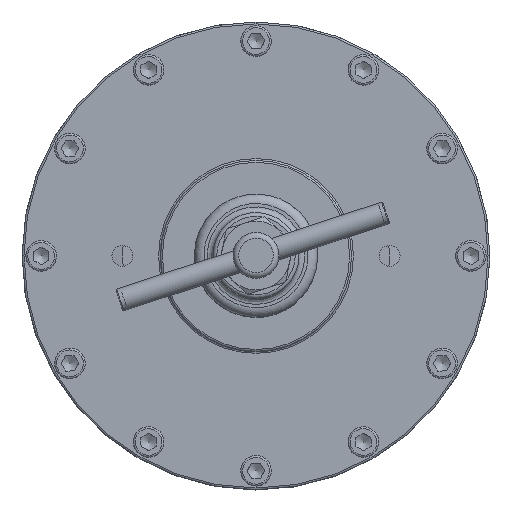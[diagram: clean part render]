
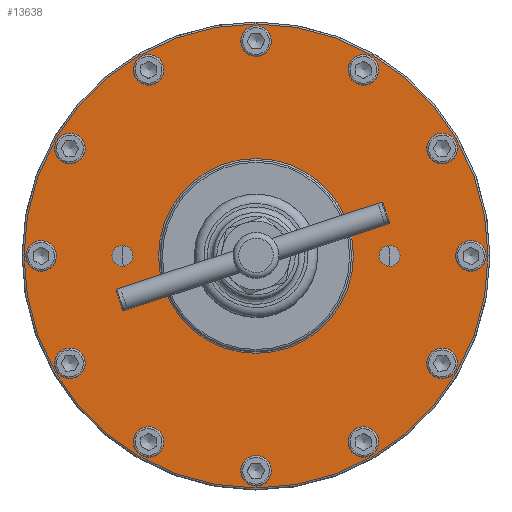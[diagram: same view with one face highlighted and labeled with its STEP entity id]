
A CAD part, top view. The second image highlights one B-rep face of the part: STEP entity #13638.
In plain terms, the highlighted planar face has unit normal (0, 0, 1) as drawn and (0, 1, 0) by its records, which use the part's own axes.
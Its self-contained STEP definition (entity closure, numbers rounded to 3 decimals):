
#13453=CARTESIAN_POINT('',(-121.5,-4.,0.));
#13454=VERTEX_POINT('',#13453);
#13455=CARTESIAN_POINT('',(0.0,-4.,0.0));
#13456=DIRECTION('',(0.0,-1.0,0.0));
#13457=DIRECTION('',(1.0,0.0,0.0));
#13458=AXIS2_PLACEMENT_3D('',#13455,#13456,#13457);
#13459=CIRCLE('',#13458,121.5);
#13460=EDGE_CURVE('',#13454,#13454,#13459,.T.);
#13465=CARTESIAN_POINT('',(-86.25,-4.,0.0));
#13466=DIRECTION('',(0.0,1.0,0.0));
#13467=DIRECTION('',(0.0,0.0,1.0));
#13468=AXIS2_PLACEMENT_3D('',#13465,#13466,#13467);
#13469=PLANE('',#13468);
#13470=ORIENTED_EDGE('',*,*,#13460,.F.);
#13471=EDGE_LOOP('',(#13470));
#13472=FACE_OUTER_BOUND('',#13471,.T.);
#13473=CARTESIAN_POINT('',(-51.0,-4.,0.0));
#13474=VERTEX_POINT('',#13473);
#13475=CARTESIAN_POINT('',(0.0,-4.,0.0));
#13476=DIRECTION('',(0.0,1.0,0.0));
#13477=DIRECTION('',(1.0,0.0,0.0));
#13478=AXIS2_PLACEMENT_3D('',#13475,#13476,#13477);
#13479=CIRCLE('',#13478,51.0);
#13480=EDGE_CURVE('',#13474,#13474,#13479,.T.);
#13481=ORIENTED_EDGE('',*,*,#13480,.F.);
#13482=EDGE_LOOP('',(#13481));
#13483=FACE_BOUND('',#13482,.T.);
#13484=CARTESIAN_POINT('',(75.459,-4.,0.0));
#13485=VERTEX_POINT('',#13484);
#13486=CARTESIAN_POINT('',(70.0,-4.,0.0));
#13487=DIRECTION('',(0.0,-1.0,0.0));
#13488=DIRECTION('',(1.0,0.0,0.0));
#13489=AXIS2_PLACEMENT_3D('',#13486,#13487,#13488);
#13490=CIRCLE('',#13489,5.459);
#13491=EDGE_CURVE('',#13485,#13485,#13490,.T.);
#13492=ORIENTED_EDGE('',*,*,#13491,.T.);
#13493=EDGE_LOOP('',(#13492));
#13494=FACE_BOUND('',#13493,.T.);
#13495=CARTESIAN_POINT('',(-64.541,-4.,0.0));
#13496=VERTEX_POINT('',#13495);
#13497=CARTESIAN_POINT('',(-70.0,-4.,0.0));
#13498=DIRECTION('',(0.0,-1.0,0.0));
#13499=DIRECTION('',(1.0,0.0,0.0));
#13500=AXIS2_PLACEMENT_3D('',#13497,#13498,#13499);
#13501=CIRCLE('',#13500,5.459);
#13502=EDGE_CURVE('',#13496,#13496,#13501,.T.);
#13503=ORIENTED_EDGE('',*,*,#13502,.T.);
#13504=EDGE_LOOP('',(#13503));
#13505=FACE_BOUND('',#13504,.T.);
#13506=CARTESIAN_POINT('',(-92.881,-4.,-53.625));
#13507=VERTEX_POINT('',#13506);
#13508=CARTESIAN_POINT('',(-97.428,-4.,-56.25));
#13509=DIRECTION('',(0.0,-1.0,0.0));
#13510=DIRECTION('',(0.866,0.0,0.5));
#13511=AXIS2_PLACEMENT_3D('',#13508,#13509,#13510);
#13512=CIRCLE('',#13511,5.25);
#13513=EDGE_CURVE('',#13507,#13507,#13512,.T.);
#13514=ORIENTED_EDGE('',*,*,#13513,.T.);
#13515=EDGE_LOOP('',(#13514));
#13516=FACE_BOUND('',#13515,.T.);
#13517=CARTESIAN_POINT('',(-53.625,-4.,-92.881));
#13518=VERTEX_POINT('',#13517);
#13519=CARTESIAN_POINT('',(-56.25,-4.,-97.428));
#13520=DIRECTION('',(0.0,-1.0,0.0));
#13521=DIRECTION('',(0.5,0.0,0.866));
#13522=AXIS2_PLACEMENT_3D('',#13519,#13520,#13521);
#13523=CIRCLE('',#13522,5.25);
#13524=EDGE_CURVE('',#13518,#13518,#13523,.T.);
#13525=ORIENTED_EDGE('',*,*,#13524,.T.);
#13526=EDGE_LOOP('',(#13525));
#13527=FACE_BOUND('',#13526,.T.);
#13528=CARTESIAN_POINT('',(0.,-4.,-107.25));
#13529=VERTEX_POINT('',#13528);
#13530=CARTESIAN_POINT('',(0.,-4.,-112.5));
#13531=DIRECTION('',(0.0,-1.0,0.0));
#13532=DIRECTION('',(0.0,0.0,1.0));
#13533=AXIS2_PLACEMENT_3D('',#13530,#13531,#13532);
#13534=CIRCLE('',#13533,5.25);
#13535=EDGE_CURVE('',#13529,#13529,#13534,.T.);
#13536=ORIENTED_EDGE('',*,*,#13535,.T.);
#13537=EDGE_LOOP('',(#13536));
#13538=FACE_BOUND('',#13537,.T.);
#13539=CARTESIAN_POINT('',(53.625,-4.,-92.881));
#13540=VERTEX_POINT('',#13539);
#13541=CARTESIAN_POINT('',(56.25,-4.,-97.428));
#13542=DIRECTION('',(0.0,-1.0,0.0));
#13543=DIRECTION('',(-0.5,0.0,0.866));
#13544=AXIS2_PLACEMENT_3D('',#13541,#13542,#13543);
#13545=CIRCLE('',#13544,5.25);
#13546=EDGE_CURVE('',#13540,#13540,#13545,.T.);
#13547=ORIENTED_EDGE('',*,*,#13546,.T.);
#13548=EDGE_LOOP('',(#13547));
#13549=FACE_BOUND('',#13548,.T.);
#13550=CARTESIAN_POINT('',(92.881,-4.,-53.625));
#13551=VERTEX_POINT('',#13550);
#13552=CARTESIAN_POINT('',(97.428,-4.,-56.25));
#13553=DIRECTION('',(0.0,-1.0,0.0));
#13554=DIRECTION('',(-0.866,0.0,0.5));
#13555=AXIS2_PLACEMENT_3D('',#13552,#13553,#13554);
#13556=CIRCLE('',#13555,5.25);
#13557=EDGE_CURVE('',#13551,#13551,#13556,.T.);
#13558=ORIENTED_EDGE('',*,*,#13557,.T.);
#13559=EDGE_LOOP('',(#13558));
#13560=FACE_BOUND('',#13559,.T.);
#13561=CARTESIAN_POINT('',(107.25,-4.,0.));
#13562=VERTEX_POINT('',#13561);
#13563=CARTESIAN_POINT('',(112.5,-4.,0.));
#13564=DIRECTION('',(0.0,-1.0,0.0));
#13565=DIRECTION('',(-1.0,0.0,0.0));
#13566=AXIS2_PLACEMENT_3D('',#13563,#13564,#13565);
#13567=CIRCLE('',#13566,5.25);
#13568=EDGE_CURVE('',#13562,#13562,#13567,.T.);
#13569=ORIENTED_EDGE('',*,*,#13568,.T.);
#13570=EDGE_LOOP('',(#13569));
#13571=FACE_BOUND('',#13570,.T.);
#13572=CARTESIAN_POINT('',(92.881,-4.,53.625));
#13573=VERTEX_POINT('',#13572);
#13574=CARTESIAN_POINT('',(97.428,-4.,56.25));
#13575=DIRECTION('',(0.0,-1.0,0.0));
#13576=DIRECTION('',(-0.866,0.0,-0.5));
#13577=AXIS2_PLACEMENT_3D('',#13574,#13575,#13576);
#13578=CIRCLE('',#13577,5.25);
#13579=EDGE_CURVE('',#13573,#13573,#13578,.T.);
#13580=ORIENTED_EDGE('',*,*,#13579,.T.);
#13581=EDGE_LOOP('',(#13580));
#13582=FACE_BOUND('',#13581,.T.);
#13583=CARTESIAN_POINT('',(53.625,-4.,92.881));
#13584=VERTEX_POINT('',#13583);
#13585=CARTESIAN_POINT('',(56.25,-4.,97.428));
#13586=DIRECTION('',(0.0,-1.,0.0));
#13587=DIRECTION('',(-0.5,0.0,-0.866));
#13588=AXIS2_PLACEMENT_3D('',#13585,#13586,#13587);
#13589=CIRCLE('',#13588,5.25);
#13590=EDGE_CURVE('',#13584,#13584,#13589,.T.);
#13591=ORIENTED_EDGE('',*,*,#13590,.T.);
#13592=EDGE_LOOP('',(#13591));
#13593=FACE_BOUND('',#13592,.T.);
#13594=CARTESIAN_POINT('',(0.,-4.,107.25));
#13595=VERTEX_POINT('',#13594);
#13596=CARTESIAN_POINT('',(0.,-4.,112.5));
#13597=DIRECTION('',(0.0,-1.0,0.0));
#13598=DIRECTION('',(0.0,0.0,-1.0));
#13599=AXIS2_PLACEMENT_3D('',#13596,#13597,#13598);
#13600=CIRCLE('',#13599,5.25);
#13601=EDGE_CURVE('',#13595,#13595,#13600,.T.);
#13602=ORIENTED_EDGE('',*,*,#13601,.T.);
#13603=EDGE_LOOP('',(#13602));
#13604=FACE_BOUND('',#13603,.T.);
#13605=CARTESIAN_POINT('',(-53.625,-4.,92.881));
#13606=VERTEX_POINT('',#13605);
#13607=CARTESIAN_POINT('',(-56.25,-4.,97.428));
#13608=DIRECTION('',(0.0,-1.,0.0));
#13609=DIRECTION('',(0.5,0.0,-0.866));
#13610=AXIS2_PLACEMENT_3D('',#13607,#13608,#13609);
#13611=CIRCLE('',#13610,5.25);
#13612=EDGE_CURVE('',#13606,#13606,#13611,.T.);
#13613=ORIENTED_EDGE('',*,*,#13612,.T.);
#13614=EDGE_LOOP('',(#13613));
#13615=FACE_BOUND('',#13614,.T.);
#13616=CARTESIAN_POINT('',(-92.881,-4.,53.625));
#13617=VERTEX_POINT('',#13616);
#13618=CARTESIAN_POINT('',(-97.428,-4.,56.25));
#13619=DIRECTION('',(0.0,-1.0,0.0));
#13620=DIRECTION('',(0.866,0.0,-0.5));
#13621=AXIS2_PLACEMENT_3D('',#13618,#13619,#13620);
#13622=CIRCLE('',#13621,5.25);
#13623=EDGE_CURVE('',#13617,#13617,#13622,.T.);
#13624=ORIENTED_EDGE('',*,*,#13623,.T.);
#13625=EDGE_LOOP('',(#13624));
#13626=FACE_BOUND('',#13625,.T.);
#13627=CARTESIAN_POINT('',(-107.25,-4.,0.0));
#13628=VERTEX_POINT('',#13627);
#13629=CARTESIAN_POINT('',(-112.5,-4.,0.0));
#13630=DIRECTION('',(0.0,-1.0,0.0));
#13631=DIRECTION('',(1.0,0.0,0.0));
#13632=AXIS2_PLACEMENT_3D('',#13629,#13630,#13631);
#13633=CIRCLE('',#13632,5.25);
#13634=EDGE_CURVE('',#13628,#13628,#13633,.T.);
#13635=ORIENTED_EDGE('',*,*,#13634,.T.);
#13636=EDGE_LOOP('',(#13635));
#13637=FACE_BOUND('',#13636,.T.);
#13638=ADVANCED_FACE('',(#13472,#13483,#13494,#13505,#13516,#13527,#13538,#13549,#13560,#13571,#13582,#13593,#13604,#13615,#13626,#13637),#13469,.T.);
